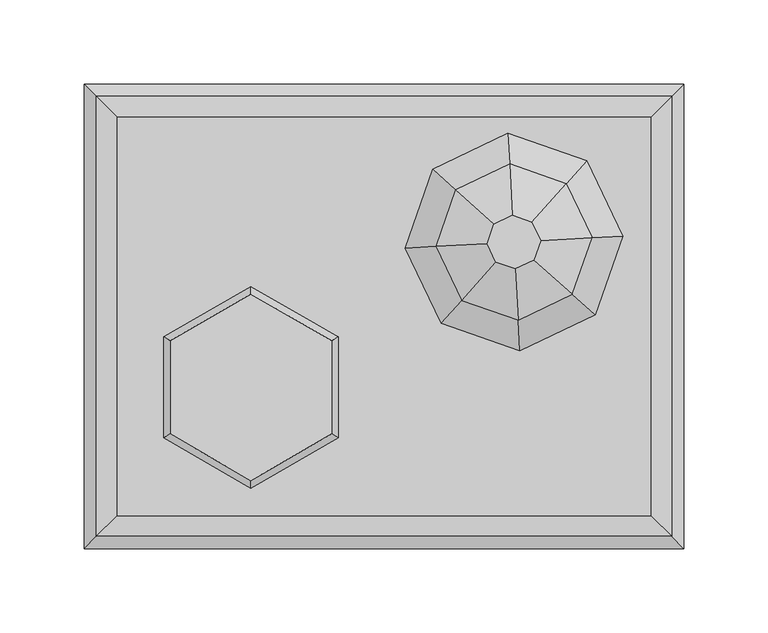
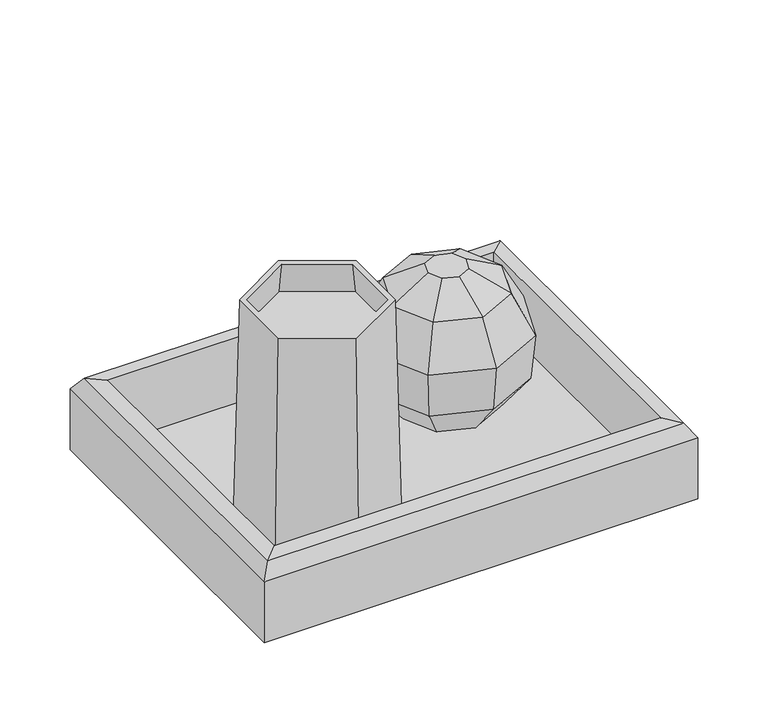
"""IFC4 building model written with IfcOpenShell, lengths in millimetres: geographic element geometry, Enscape AssetDefinition - Candle Tray 002 : Enscape AssetDefinition - Candle Tray 002."""

from ifc_helpers import new_model, si_unit, origin, place, context, project, spatial, triangles, source, transform, mapped, element, save


def geographic_element_7c65a5d7(model_context):
    return source(origin(), model_context, "Body", "Tessellation", [
        triangles([(-178.5520011, -138.2690039, 53.2680013), (178.5520011, -138.2690039, 0.101), (-178.5520011, 138.2690039, 0.101), (-178.5520011, -138.2690039, 0.101), (178.5520011, 138.2690039, 0.101), (178.5520011, 138.2690039, 53.2680013), (171.1670049, -130.8850069, 64.3199975), (178.5520011, -138.2690039, 53.2680013), (-171.1670049, 130.8850069, 64.3199975), (-178.5520011, 138.2690039, 53.2680013), (-171.1670049, -130.8850069, 64.3199975), (159.1300035, -118.8480055, 65.6950044), (171.1670049, 130.8850069, 64.3199975), (-159.1300035, -118.8480055, 65.6950044), (-159.1300035, 118.8480055, 65.6950044), (-159.1300035, 118.8480055, 8.8469998), (159.1300035, 118.8480055, 65.6950044), (-159.1300035, -118.8480055, 8.8469998), (159.1300035, -118.8480055, 8.8469998), (159.1300035, 118.8480055, 8.8469998), (-131.2299986, -12.2590003, 13.0609999), (-129.4970103, -13.2600009, 10.0809992), (-129.4970103, -71.2860013, 10.0809992), (-79.2449995, 13.2150001, 205.6539987), (-127.2989976, -14.5290005, 205.6539987), (-123.0309987, -16.9929989, 205.6539987), (-123.0299995, -67.5519995, 205.6539987), (-126.5559925, -14.9579998, 179.39401), (-79.2449995, 12.3570003, 179.39401), (-79.2449995, 8.2860001, 205.6539987), (-31.9349989, -14.9579998, 179.39401), (-31.9349989, -69.587999, 179.39401), (-126.5559925, -69.587999, 179.39401), (-79.2449995, -96.9019976, 179.39401), (-35.4610009, -67.5519995, 205.6539987), (-35.4599994, -16.9929989, 205.6539987), (-31.1910013, -14.5290005, 205.6539987), (-79.2449995, 17.7550005, 13.0609999), (-31.1910013, -70.0159979, 205.6539987), (-79.2449995, -92.8319972, 205.6539987), (-131.2299986, -72.2869985, 13.0609999), (-79.2449995, -97.7610023, 205.6539987), (-127.2989976, -70.0159979, 205.6539987), (-79.2449995, -102.3000057, 13.0609999), (-27.2600003, -72.2869985, 13.0609999), (-79.2449995, -100.2990014, 10.0809992), (-126.5619968, -69.5910012, 8.8469998), (-28.993, -71.2860013, 10.0809992), (-79.2449995, -96.9100004, 8.8469998), (-31.9279998, -69.5910012, 8.8469998), (-27.2600003, -12.2590003, 13.0609999), (-28.993, -13.2600009, 10.0809992), (-79.2449995, 12.3640005, 8.8469998), (-31.9279998, -14.9539996, 8.8469998), (-126.5619968, -14.9539996, 8.8469998), (-79.2449995, 15.7529992, 10.0809992), (120.5670048, 92.4789936, 76.7970021), (108.5019982, 79.0039985, 110.6349984), (88.007001, 56.1129993, 127.7779927), (76.4480045, 60.1699964, 127.7779927), (42.514002, 75.3599986, 110.6349984), (74.7529998, 90.8489968, 110.6349984), (29.0390001, 87.4250052, 76.7970021), (30.6700007, 41.6119995, 110.6349984), (12.6099997, 40.6149991, 76.7970021), (61.3479996, 43.3060004, 127.7779927), (66.6529992, 32.2640008, 127.7779927), (46.158002, 9.3729999, 110.6349984), (80.696001, -16.7759995, 38.6130001), (16.3659989, 40.8219995, 38.6130001), (36.6020014, -1.3, 38.6130001), (34.0929999, -4.102, 76.7970021), (80.9040007, -20.5310006, 76.7970021), (40.0060019, 42.1280018, 8.9539996), (79.3910025, 6.8640001, 8.9539996), (122.8190022, 3.4600001, 38.6130001), (52.3950032, 16.3390009, 8.9539996), (112.1459981, 13.0160001, 110.6349984), (105.1789997, 19.2530013, 8.9539996), (114.6539937, 46.2489984, 8.9539996), (138.2939933, 47.5550006, 38.6130001), (142.0499959, 47.7620011, 76.7970021), (102.264997, 72.0380039, 8.9539996), (75.2689976, 81.5130024, 8.9539996), (73.9639991, 105.153002, 38.6130001), (118.058001, 89.6770026, 38.6130001), (73.756004, 108.9079963, 76.7970021), (125.6210023, 0.952, 76.7970021), (123.9899972, 46.7650007, 110.6349984), (89.2549989, 33.5120011, 127.7779927), (79.9060056, -2.472, 110.6349984), (93.3110013, 45.0709998, 127.7779927), (65.4049967, 54.8649969, 127.7779927), (78.2120047, 28.2070015, 127.7779927), (31.840998, 84.9160014, 38.6130001), (49.4810004, 69.1230019, 8.9539996)], [[74, 96, 84], [84, 96, 95], [95, 96, 74], [84, 95, 85], [87, 85, 95], [91, 94, 67], [67, 94, 93], [92, 59, 93], [90, 92, 93], [90, 94, 91], [94, 90, 93], [90, 91, 78], [89, 92, 90], [89, 59, 92], [88, 89, 78], [89, 90, 78], [88, 82, 89], [89, 82, 57], [57, 85, 87], [57, 86, 85], [83, 84, 85], [83, 85, 86], [84, 80, 74], [84, 83, 80], [57, 82, 81], [81, 80, 83], [57, 81, 86], [81, 83, 86], [88, 81, 82], [79, 80, 81], [75, 77, 74], [80, 79, 75], [80, 75, 74], [75, 79, 76], [88, 76, 81], [79, 81, 76], [73, 88, 78], [73, 78, 91], [73, 76, 88], [73, 69, 76], [69, 77, 75], [75, 76, 69], [74, 77, 71], [69, 71, 77], [95, 74, 70], [74, 71, 70], [72, 73, 91], [72, 71, 69], [72, 70, 71], [72, 69, 73], [72, 91, 68], [91, 67, 68], [93, 66, 67], [68, 67, 66], [64, 72, 68], [68, 66, 64], [64, 65, 72], [72, 65, 70], [65, 95, 70], [65, 63, 95], [87, 95, 63], [61, 63, 65], [66, 93, 61], [61, 65, 64], [66, 61, 64], [62, 87, 63], [62, 63, 61], [93, 62, 61], [59, 60, 93], [93, 60, 62], [89, 58, 59], [58, 62, 60], [58, 57, 87], [89, 57, 58], [58, 60, 59], [58, 87, 62], [22, 55, 47], [55, 22, 56], [56, 38, 51], [55, 56, 53], [54, 53, 56], [55, 53, 54], [52, 51, 45], [54, 56, 52], [56, 51, 52], [54, 50, 55], [52, 50, 54], [52, 48, 50], [52, 45, 48], [50, 49, 55], [48, 49, 50], [49, 47, 55], [49, 23, 47], [22, 47, 23], [48, 46, 49], [49, 46, 23], [46, 48, 45], [46, 45, 44], [46, 44, 41], [46, 41, 23], [27, 43, 42], [42, 44, 45], [41, 44, 42], [41, 42, 43], [27, 42, 40], [35, 40, 42], [39, 45, 51], [35, 42, 39], [42, 45, 39], [39, 51, 37], [51, 38, 24], [51, 24, 37], [36, 35, 39], [24, 36, 37], [36, 39, 37], [35, 36, 31], [35, 31, 32], [35, 32, 34], [35, 34, 40], [34, 27, 40], [34, 33, 27], [33, 34, 29], [32, 31, 29], [34, 32, 29], [24, 30, 36], [30, 29, 31], [30, 31, 36], [29, 28, 33], [28, 29, 30], [27, 33, 28], [26, 30, 24], [26, 43, 27], [28, 30, 26], [27, 28, 26], [26, 25, 43], [26, 24, 25], [56, 22, 21], [23, 41, 21], [24, 38, 21], [21, 41, 43], [56, 21, 38], [23, 21, 22], [24, 21, 25], [21, 43, 25], [19, 20, 16], [19, 16, 18], [14, 18, 16], [12, 19, 18], [12, 18, 14], [17, 20, 19], [17, 19, 12], [15, 16, 20], [15, 20, 17], [14, 16, 15], [12, 14, 11], [15, 11, 14], [7, 11, 1], [12, 11, 7], [15, 17, 13], [12, 7, 13], [12, 13, 17], [15, 9, 11], [9, 1, 11], [15, 13, 9], [9, 10, 1], [9, 13, 6], [9, 6, 10], [8, 6, 13], [8, 13, 7], [7, 1, 8], [5, 6, 8], [3, 10, 6], [3, 6, 5], [4, 1, 10], [4, 10, 3], [3, 5, 2], [2, 8, 1], [5, 8, 2], [3, 2, 4], [2, 1, 4]]),
    ])


if __name__ == "__main__":
    model = new_model("IFC4")
    model_context = context("Model", 3, world=origin())
    ifc_project = project(units=[si_unit("LENGTHUNIT", "METRE", prefix="MILLI")], contexts=[model_context])
    site = spatial("IfcSite", under=ifc_project)
    building = spatial("IfcBuilding", under=site)
    placement = place(None, origin())
    geographic_element_shape = geographic_element_7c65a5d7(model_context)
    element("IfcGeographicElement", 1, ObjectType="Enscape AssetDefinition - Candle Tray 002 : Enscape AssetDefinition - Candle Tray 002", at=placement, inside=building, context=model_context, shape_type="MappedRepresentation", body=[
        mapped(geographic_element_shape, transform((0.0, 0.0, 0.0), x_axis=(1.0, 0.0, 0.0), y_axis=(0.0, 1.0, 0.0), z_axis=(0.0, 0.0, 1.0))),
    ])
    save(model, "model.ifc")
